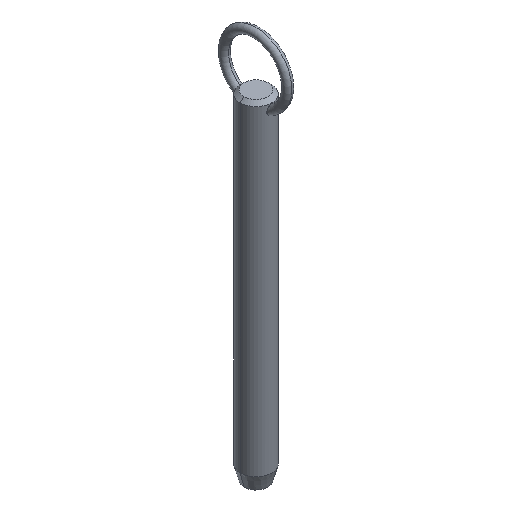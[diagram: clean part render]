
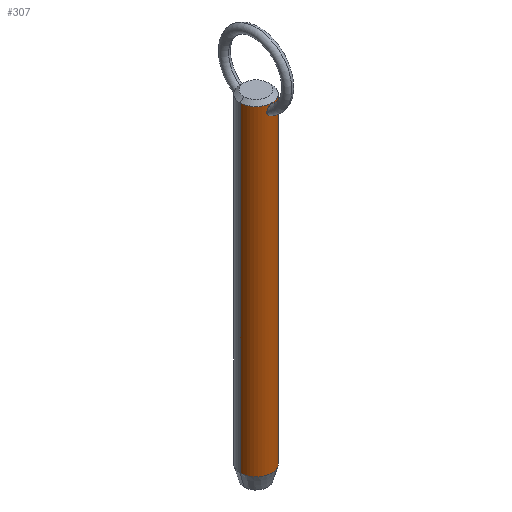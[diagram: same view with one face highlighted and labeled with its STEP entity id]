
A CAD part, isometric view. The second image highlights one B-rep face of the part: STEP entity #307.
In plain terms, the highlighted cylindrical face has radius 5.55 mm (diameter 11.1 mm), a partial arc.
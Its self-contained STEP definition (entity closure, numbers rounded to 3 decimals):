
#4 = AXIS2_PLACEMENT_3D ( 'NONE', #369, #412, #184 ) ;
#8 = CARTESIAN_POINT ( 'NONE',  ( -1.477, -5.35, 101.642 ) ) ;
#10 = CARTESIAN_POINT ( 'NONE',  ( -0.212, -5.547, 100.388 ) ) ;
#11 = CARTESIAN_POINT ( 'NONE',  ( -0.807, -5.492, 100.605 ) ) ;
#19 = EDGE_LOOP ( 'NONE', ( #508, #351, #77, #489 ) ) ;
#21 = FACE_BOUND ( 'NONE', #40, .T. ) ;
#32 = CARTESIAN_POINT ( 'NONE',  ( 0.523, -5.526, 100.466 ) ) ;
#34 = CARTESIAN_POINT ( 'NONE',  ( 0.786, -5.497, 103.557 ) ) ;
#39 = VECTOR ( 'NONE', #419, 1000. ) ;
#40 = EDGE_LOOP ( 'NONE', ( #163, #445 ) ) ;
#42 = CARTESIAN_POINT ( 'NONE',  ( -0.42, -5.535, 100.432 ) ) ;
#44 = CARTESIAN_POINT ( 'NONE',  ( -5.55, 0., 99.1 ) ) ;
#45 = CARTESIAN_POINT ( 'NONE',  ( -1.195, -5.421, 103.071 ) ) ;
#61 = CARTESIAN_POINT ( 'NONE',  ( 1.5, -5.343, 101.854 ) ) ;
#63 = B_SPLINE_CURVE_WITH_KNOTS ( 'NONE', 3,
 ( #376, #221, #10, #42, #164, #323, #11, #132, #361, #166, #243, #495, #8, #206, #497, #447, #405, #245, #45, #203, #363, #285, #82, #451, #127, #133 ),
 .UNSPECIFIED., .F., .F.,
 ( 4, 2, 2, 2, 2, 2, 2, 2, 2, 2, 2, 2, 4 ),
 ( 0.01, 0.01, 0.01, 0.011, 0.011, 0.012, 0.012, 0.012, 0.013, 0.013, 0.014, 0.014, 0.015 ),
 .UNSPECIFIED. ) ;
#67 = LINE ( 'NONE', #44, #274 ) ;
#74 = CARTESIAN_POINT ( 'NONE',  ( 1.44, -5.36, 102.486 ) ) ;
#77 = ORIENTED_EDGE ( 'NONE', *, *, #432, .T. ) ;
#79 = EDGE_CURVE ( 'NONE', #471, #320, #420, .T. ) ;
#82 = CARTESIAN_POINT ( 'NONE',  ( -0.416, -5.535, 103.767 ) ) ;
#90 = LINE ( 'NONE', #429, #39 ) ;
#98 = DIRECTION ( 'NONE',  ( 1., 0., 0. ) ) ;
#106 = CARTESIAN_POINT ( 'NONE',  ( 5.55, 0., 104.15 ) ) ;
#107 = CARTESIAN_POINT ( 'NONE',  ( 1.363, -5.38, 101.234 ) ) ;
#119 = CARTESIAN_POINT ( 'NONE',  ( 0.807, -5.492, 100.606 ) ) ;
#121 = CARTESIAN_POINT ( 'NONE',  ( 0.515, -5.527, 103.722 ) ) ;
#127 = CARTESIAN_POINT ( 'NONE',  ( -0.106, -5.55, 103.845 ) ) ;
#130 = DIRECTION ( 'NONE',  ( 0., 0., -1. ) ) ;
#132 = CARTESIAN_POINT ( 'NONE',  ( -0.976, -5.464, 100.731 ) ) ;
#133 = CARTESIAN_POINT ( 'NONE',  ( 0., -5.55, 103.845 ) ) ;
#144 = CARTESIAN_POINT ( 'NONE',  ( 0.977, -5.464, 100.732 ) ) ;
#149 = VERTEX_POINT ( 'NONE', #338 ) ;
#156 = CARTESIAN_POINT ( 'NONE',  ( 1.455, -5.356, 101.538 ) ) ;
#160 = EDGE_CURVE ( 'NONE', #162, #224, #90, .T. ) ;
#162 = VERTEX_POINT ( 'NONE', #106 ) ;
#163 = ORIENTED_EDGE ( 'NONE', *, *, #79, .T. ) ;
#164 = CARTESIAN_POINT ( 'NONE',  ( -0.523, -5.526, 100.466 ) ) ;
#166 = CARTESIAN_POINT ( 'NONE',  ( -1.26, -5.407, 101.042 ) ) ;
#181 = AXIS2_PLACEMENT_3D ( 'NONE', #325, #130, #98 ) ;
#184 = DIRECTION ( 'NONE',  ( -1., 0., 0. ) ) ;
#203 = CARTESIAN_POINT ( 'NONE',  ( -0.939, -5.472, 103.41 ) ) ;
#204 = VERTEX_POINT ( 'NONE', #263 ) ;
#206 = CARTESIAN_POINT ( 'NONE',  ( -1.5, -5.343, 101.853 ) ) ;
#208 = DIRECTION ( 'NONE',  ( 0., 0., -1. ) ) ;
#221 = CARTESIAN_POINT ( 'NONE',  ( -0.107, -5.55, 100.377 ) ) ;
#224 = VERTEX_POINT ( 'NONE', #345 ) ;
#243 = CARTESIAN_POINT ( 'NONE',  ( -1.362, -5.381, 101.232 ) ) ;
#245 = CARTESIAN_POINT ( 'NONE',  ( -1.294, -5.398, 102.886 ) ) ;
#249 = CARTESIAN_POINT ( 'NONE',  ( 0.106, -5.55, 103.845 ) ) ;
#257 = CARTESIAN_POINT ( 'NONE',  ( 0., -5.55, 103.845 ) ) ;
#259 = AXIS2_PLACEMENT_3D ( 'NONE', #280, #328, #279 ) ;
#263 = CARTESIAN_POINT ( 'NONE',  ( -5.55, 0., 104.15 ) ) ;
#268 = CIRCLE ( 'NONE', #259, 5.55 ) ;
#271 = CARTESIAN_POINT ( 'NONE',  ( 0.941, -5.471, 103.407 ) ) ;
#272 = CARTESIAN_POINT ( 'NONE',  ( 1.477, -5.35, 101.644 ) ) ;
#273 = CARTESIAN_POINT ( 'NONE',  ( 0.421, -5.535, 100.432 ) ) ;
#274 = VECTOR ( 'NONE', #208, 1000. ) ;
#279 = DIRECTION ( 'NONE',  ( -1., 0., 0. ) ) ;
#280 = CARTESIAN_POINT ( 'NONE',  ( 0., 0., -9.2 ) ) ;
#285 = CARTESIAN_POINT ( 'NONE',  ( -0.513, -5.527, 103.723 ) ) ;
#289 = CARTESIAN_POINT ( 'NONE',  ( 0.214, -5.547, 103.828 ) ) ;
#299 = CARTESIAN_POINT ( 'NONE',  ( 1.486, -5.347, 102.274 ) ) ;
#307 = ADVANCED_FACE ( 'NONE', ( #450, #21 ), #416, .T. ) ;
#315 = CARTESIAN_POINT ( 'NONE',  ( 0.213, -5.547, 100.388 ) ) ;
#317 = CARTESIAN_POINT ( 'NONE',  ( 0.716, -5.504, 100.552 ) ) ;
#320 = VERTEX_POINT ( 'NONE', #467 ) ;
#323 = CARTESIAN_POINT ( 'NONE',  ( -0.716, -5.504, 100.552 ) ) ;
#325 = CARTESIAN_POINT ( 'NONE',  ( 0., 0., 104.15 ) ) ;
#328 = DIRECTION ( 'NONE',  ( 0., 0., 1. ) ) ;
#338 = CARTESIAN_POINT ( 'NONE',  ( -5.55, 0., -9.2 ) ) ;
#345 = CARTESIAN_POINT ( 'NONE',  ( 5.55, 0., -9.2 ) ) ;
#351 = ORIENTED_EDGE ( 'NONE', *, *, #490, .T. ) ;
#353 = CARTESIAN_POINT ( 'NONE',  ( 1.055, -5.449, 100.805 ) ) ;
#361 = CARTESIAN_POINT ( 'NONE',  ( -1.054, -5.449, 100.804 ) ) ;
#362 = EDGE_CURVE ( 'NONE', #320, #471, #63, .T. ) ;
#363 = CARTESIAN_POINT ( 'NONE',  ( -0.785, -5.497, 103.558 ) ) ;
#369 = CARTESIAN_POINT ( 'NONE',  ( 0., 0., 99.1 ) ) ;
#376 = CARTESIAN_POINT ( 'NONE',  ( 0., -5.55, 100.377 ) ) ;
#393 = CARTESIAN_POINT ( 'NONE',  ( 0.417, -5.535, 103.767 ) ) ;
#405 = CARTESIAN_POINT ( 'NONE',  ( -1.44, -5.36, 102.487 ) ) ;
#406 = EDGE_CURVE ( 'NONE', #149, #224, #268, .T. ) ;
#412 = DIRECTION ( 'NONE',  ( 0., 0., -1. ) ) ;
#416 = CYLINDRICAL_SURFACE ( 'NONE', #4, 5.55 ) ;
#419 = DIRECTION ( 'NONE',  ( 0., 0., -1. ) ) ;
#420 = B_SPLINE_CURVE_WITH_KNOTS ( 'NONE', 3,
 ( #257, #249, #289, #393, #121, #34, #271, #434, #526, #74, #299, #422, #61, #272, #156, #107, #438, #353, #144, #119, #317, #32, #273, #315, #465, #523 ),
 .UNSPECIFIED., .F., .F.,
 ( 4, 2, 2, 2, 2, 2, 2, 2, 2, 2, 2, 2, 4 ),
 ( 0.005, 0.005, 0.005, 0.006, 0.006, 0.007, 0.007, 0.008, 0.008, 0.009, 0.009, 0.009, 0.01 ),
 .UNSPECIFIED. ) ;
#422 = CARTESIAN_POINT ( 'NONE',  ( 1.503, -5.343, 101.959 ) ) ;
#429 = CARTESIAN_POINT ( 'NONE',  ( 5.55, 0., 99.1 ) ) ;
#432 = EDGE_CURVE ( 'NONE', #204, #149, #67, .T. ) ;
#434 = CARTESIAN_POINT ( 'NONE',  ( 1.194, -5.422, 103.071 ) ) ;
#438 = CARTESIAN_POINT ( 'NONE',  ( 1.26, -5.407, 101.043 ) ) ;
#445 = ORIENTED_EDGE ( 'NONE', *, *, #362, .T. ) ;
#447 = CARTESIAN_POINT ( 'NONE',  ( -1.485, -5.348, 102.279 ) ) ;
#450 = FACE_OUTER_BOUND ( 'NONE', #19, .T. ) ;
#451 = CARTESIAN_POINT ( 'NONE',  ( -0.211, -5.547, 103.829 ) ) ;
#465 = CARTESIAN_POINT ( 'NONE',  ( 0.107, -5.55, 100.377 ) ) ;
#467 = CARTESIAN_POINT ( 'NONE',  ( 0., -5.55, 100.377 ) ) ;
#471 = VERTEX_POINT ( 'NONE', #492 ) ;
#474 = CIRCLE ( 'NONE', #181, 5.55 ) ;
#489 = ORIENTED_EDGE ( 'NONE', *, *, #406, .T. ) ;
#490 = EDGE_CURVE ( 'NONE', #162, #204, #474, .T. ) ;
#492 = CARTESIAN_POINT ( 'NONE',  ( 0., -5.55, 103.845 ) ) ;
#495 = CARTESIAN_POINT ( 'NONE',  ( -1.455, -5.356, 101.536 ) ) ;
#497 = CARTESIAN_POINT ( 'NONE',  ( -1.503, -5.343, 101.959 ) ) ;
#508 = ORIENTED_EDGE ( 'NONE', *, *, #160, .F. ) ;
#523 = CARTESIAN_POINT ( 'NONE',  ( 0., -5.55, 100.377 ) ) ;
#526 = CARTESIAN_POINT ( 'NONE',  ( 1.295, -5.397, 102.882 ) ) ;
